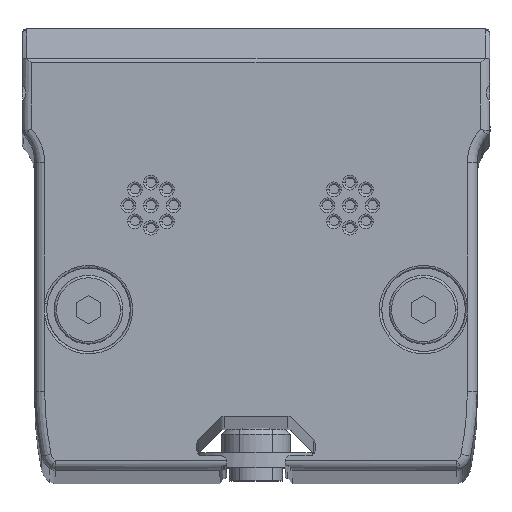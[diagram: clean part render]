
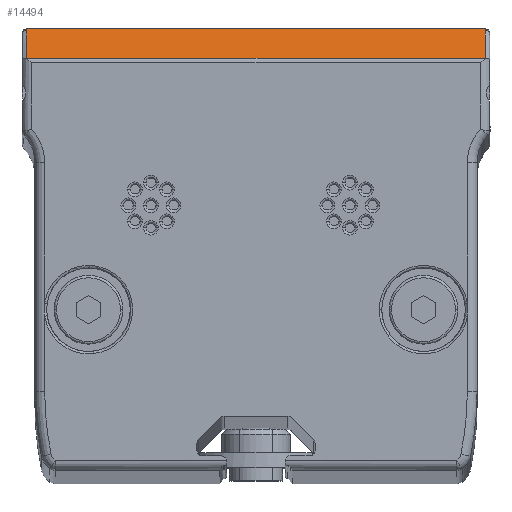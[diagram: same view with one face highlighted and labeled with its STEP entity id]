
A CAD part, top view. The second image highlights one B-rep face of the part: STEP entity #14494.
In plain terms, the highlighted planar face has unit normal (0, 0.858, 0.514).
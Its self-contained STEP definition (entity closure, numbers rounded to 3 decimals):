
#22 = DIRECTION ( 'NONE',  ( 0., -0.857, -0.514 ) ) ;
#32 = ORIENTED_EDGE ( 'NONE', *, *, #3798, .T. ) ;
#52 = LINE ( 'NONE', #15924, #8303 ) ;
#325 = LINE ( 'NONE', #24794, #22779 ) ;
#776 = ORIENTED_EDGE ( 'NONE', *, *, #4171, .T. ) ;
#1914 = CARTESIAN_POINT ( 'NONE',  ( 23.215, 22.429, 754.914 ) ) ;
#2135 = CARTESIAN_POINT ( 'NONE',  ( -23.274, 22.429, 754.914 ) ) ;
#2182 = DIRECTION ( 'NONE',  ( 0., 0.514, -0.857 ) ) ;
#3798 = EDGE_CURVE ( 'NONE', #18744, #6120, #52, .T. ) ;
#4171 = EDGE_CURVE ( 'NONE', #22850, #20762, #8062, .T. ) ;
#4667 = CARTESIAN_POINT ( 'NONE',  ( -23.315, 19.433, 759.907 ) ) ;
#5089 = CARTESIAN_POINT ( 'NONE',  ( -23.215, 22.429, 754.914 ) ) ;
#5386 = ORIENTED_EDGE ( 'NONE', *, *, #24831, .T. ) ;
#5598 = CARTESIAN_POINT ( 'NONE',  ( 23.215, 22.429, 754.914 ) ) ;
#6120 = VERTEX_POINT ( 'NONE', #4667 ) ;
#6159 = VERTEX_POINT ( 'NONE', #6685 ) ;
#6685 = CARTESIAN_POINT ( 'NONE',  ( 23.315, 22.329, 755.08 ) ) ;
#6783 = VECTOR ( 'NONE', #25583, 1000. ) ;
#6822 = AXIS2_PLACEMENT_3D ( 'NONE', #20716, #22, #2182 ) ;
#7292 = ORIENTED_EDGE ( 'NONE', *, *, #26579, .T. ) ;
#8062 =( BOUNDED_CURVE ( )  B_SPLINE_CURVE ( 3, ( #1914, #9769, #8143, #5598 ),
 .UNSPECIFIED., .F., .F. ) 
 B_SPLINE_CURVE_WITH_KNOTS ( ( 4, 4 ),
 ( 0., 0. ),
 .UNSPECIFIED. ) 
 CURVE ( )  GEOMETRIC_REPRESENTATION_ITEM ( )  RATIONAL_B_SPLINE_CURVE ( ( 1., 1., 1., 1. ) ) 
 REPRESENTATION_ITEM ( '' )  );
#8143 = CARTESIAN_POINT ( 'NONE',  ( 23.215, 22.429, 754.914 ) ) ;
#8303 = VECTOR ( 'NONE', #24167, 1000. ) ;
#8941 =( BOUNDED_CURVE ( )  B_SPLINE_CURVE ( 3, ( #20671, #2135, #20384, #10403 ),
 .UNSPECIFIED., .F., .T. ) 
 B_SPLINE_CURVE_WITH_KNOTS ( ( 4, 4 ),
 ( 0., 1.571 ),
 .UNSPECIFIED. ) 
 CURVE ( )  GEOMETRIC_REPRESENTATION_ITEM ( )  RATIONAL_B_SPLINE_CURVE ( ( 1., 0.805, 0.805, 1. ) ) 
 REPRESENTATION_ITEM ( '' )  );
#9254 = VERTEX_POINT ( 'NONE', #5089 ) ;
#9474 = EDGE_CURVE ( 'NONE', #9254, #18744, #8941, .T. ) ;
#9769 = CARTESIAN_POINT ( 'NONE',  ( 23.215, 22.429, 754.914 ) ) ;
#10203 = DIRECTION ( 'NONE',  ( 0., 0.514, -0.857 ) ) ;
#10403 = CARTESIAN_POINT ( 'NONE',  ( -23.315, 22.329, 755.08 ) ) ;
#10852 = CARTESIAN_POINT ( 'NONE',  ( 23.274, 22.429, 754.914 ) ) ;
#11154 = ORIENTED_EDGE ( 'NONE', *, *, #11843, .T. ) ;
#11843 = EDGE_CURVE ( 'NONE', #6120, #14123, #23422, .T. ) ;
#11916 = ORIENTED_EDGE ( 'NONE', *, *, #9474, .T. ) ;
#12312 = CARTESIAN_POINT ( 'NONE',  ( 23.215, 22.429, 754.914 ) ) ;
#12770 = EDGE_CURVE ( 'NONE', #14123, #6159, #325, .T. ) ;
#14123 = VERTEX_POINT ( 'NONE', #25222 ) ;
#14494 = ADVANCED_FACE ( 'NONE', ( #22866 ), #26651, .F. ) ;
#15924 = CARTESIAN_POINT ( 'NONE',  ( -23.315, 19.287, 760.15 ) ) ;
#16175 = LINE ( 'NONE', #26581, #18390 ) ;
#16382 = CARTESIAN_POINT ( 'NONE',  ( 23.315, 22.387, 754.983 ) ) ;
#17210 = CARTESIAN_POINT ( 'NONE',  ( 23.215, 22.429, 754.914 ) ) ;
#18390 = VECTOR ( 'NONE', #26188, 1000. ) ;
#18744 = VERTEX_POINT ( 'NONE', #26246 ) ;
#19389 = EDGE_LOOP ( 'NONE', ( #11154, #24274, #5386, #776, #7292, #11916, #32 ) ) ;
#20384 = CARTESIAN_POINT ( 'NONE',  ( -23.315, 22.387, 754.983 ) ) ;
#20671 = CARTESIAN_POINT ( 'NONE',  ( -23.215, 22.429, 754.914 ) ) ;
#20716 = CARTESIAN_POINT ( 'NONE',  ( 23.82, 19.287, 760.15 ) ) ;
#20762 = VERTEX_POINT ( 'NONE', #12312 ) ;
#21011 =( BOUNDED_CURVE ( )  B_SPLINE_CURVE ( 3, ( #24491, #16382, #10852, #21241 ),
 .UNSPECIFIED., .F., .F. ) 
 B_SPLINE_CURVE_WITH_KNOTS ( ( 4, 4 ),
 ( 4.712, 6.283 ),
 .UNSPECIFIED. ) 
 CURVE ( )  GEOMETRIC_REPRESENTATION_ITEM ( )  RATIONAL_B_SPLINE_CURVE ( ( 1., 0.805, 0.805, 1. ) ) 
 REPRESENTATION_ITEM ( '' )  );
#21241 = CARTESIAN_POINT ( 'NONE',  ( 23.215, 22.429, 754.914 ) ) ;
#22779 = VECTOR ( 'NONE', #10203, 1000. ) ;
#22850 = VERTEX_POINT ( 'NONE', #17210 ) ;
#22866 = FACE_OUTER_BOUND ( 'NONE', #19389, .T. ) ;
#23019 = CARTESIAN_POINT ( 'NONE',  ( 23.82, 19.433, 759.907 ) ) ;
#23422 = LINE ( 'NONE', #23019, #6783 ) ;
#24167 = DIRECTION ( 'NONE',  ( 0., -0.514, 0.857 ) ) ;
#24274 = ORIENTED_EDGE ( 'NONE', *, *, #12770, .T. ) ;
#24491 = CARTESIAN_POINT ( 'NONE',  ( 23.315, 22.329, 755.08 ) ) ;
#24794 = CARTESIAN_POINT ( 'NONE',  ( 23.315, 19.287, 760.15 ) ) ;
#24831 = EDGE_CURVE ( 'NONE', #6159, #22850, #21011, .T. ) ;
#25222 = CARTESIAN_POINT ( 'NONE',  ( 23.315, 19.433, 759.907 ) ) ;
#25583 = DIRECTION ( 'NONE',  ( 1., 0., 0. ) ) ;
#26188 = DIRECTION ( 'NONE',  ( -1., 0., 0. ) ) ;
#26246 = CARTESIAN_POINT ( 'NONE',  ( -23.315, 22.329, 755.08 ) ) ;
#26579 = EDGE_CURVE ( 'NONE', #20762, #9254, #16175, .T. ) ;
#26581 = CARTESIAN_POINT ( 'NONE',  ( -23.215, 22.429, 754.914 ) ) ;
#26651 = PLANE ( 'NONE',  #6822 ) ;
